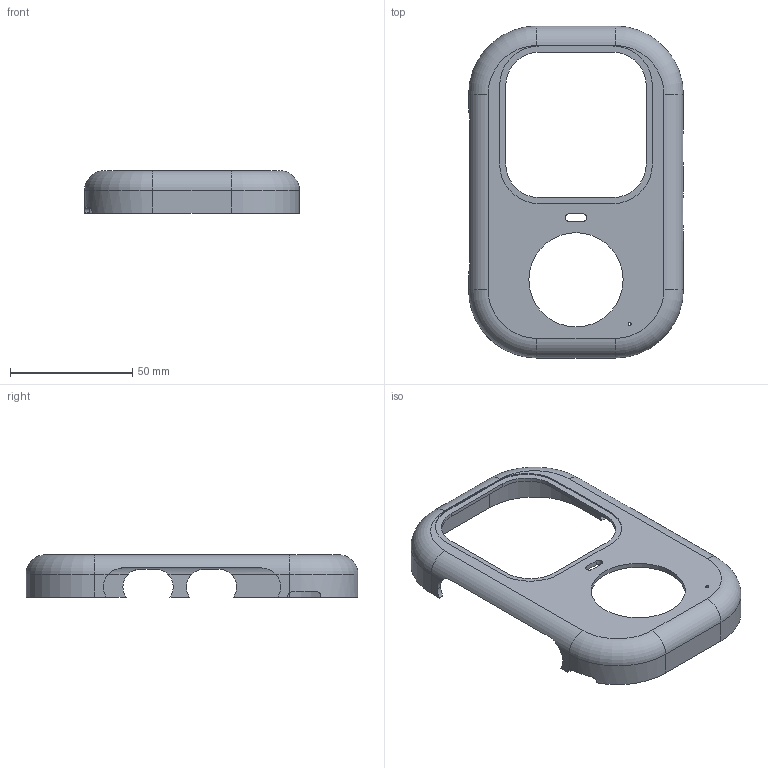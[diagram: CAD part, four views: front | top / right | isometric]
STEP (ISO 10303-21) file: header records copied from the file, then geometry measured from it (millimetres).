
FILE_DESCRIPTION(('Open CASCADE Model'),'2;1');
FILE_NAME('Open CASCADE Shape Model','2026-09-08T13:27:14',('Author'),( 'Open CASCADE'),'Open CASCADE STEP processor 7.7','Open CASCADE 7.7' ,'Unknown');
FILE_SCHEMA(('AUTOMOTIVE_DESIGN { 1 0 10303 214 1 1 1 1 }'));
Length unit declared in the file: millimetre
Products named in the file (1): Open CASCADE STEP translator 7.7 13
Bounding box: 88 x 136 x 17.4 mm (x, y, z)
Volume: 20564.7 mm3; surface area: 22503.6 mm2
Topology: 1 solids, 1 shells, 107 faces, 281 edges, 182 vertices
Faces by surface type: plane 50, cylinder 49, torus 8
Full cylindrical faces by diameter (mm): 1.2 x1, 1.7 x2, 5.4 x2, 38.6 x1, 41 x1
Entity records: 7888 total; most frequent: CARTESIAN_POINT 2260, DIRECTION 1072, LINE 607, VECTOR 607, ORIENTED_EDGE 562, PCURVE 562, DEFINITIONAL_REPRESENTATION 562, EDGE_CURVE 281
